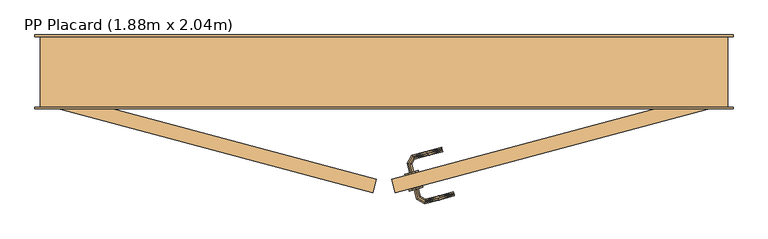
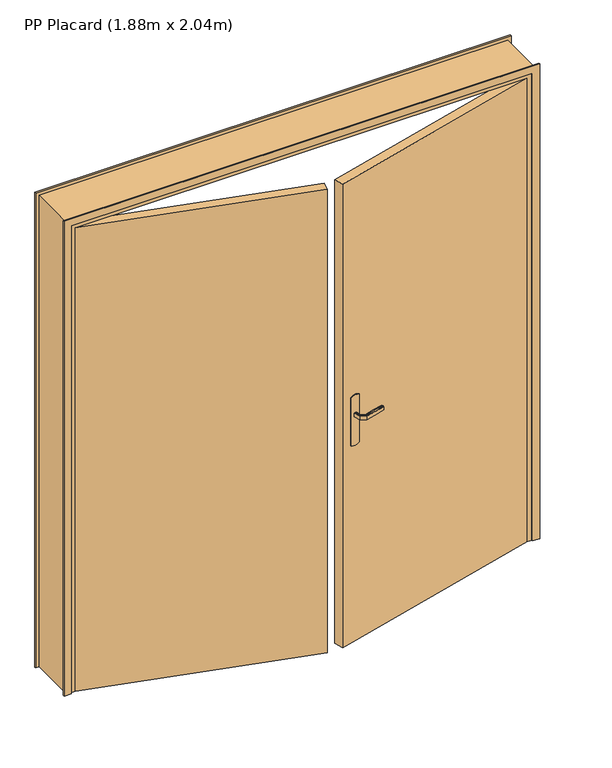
"""IFC4 building model written with IfcOpenShell, lengths in millimetres: door geometry, PP Placard (1.88m x 2.04m)."""

from ifc_helpers import new_model, si_unit, frame, origin, origin_with_axes, place, context, project, spatial, polyline, outline, extrude, faceted_brep, source, transform, mapped, element, save


def pp_placard_1_88m_x_2_04m_7054fd2c(model_context):
    return source(origin(), model_context, "Body", "SolidModel", [
        extrude(outline(polyline([(0.0, -15.0), (0.0, 15.0), (2060.0, 15.0), (2060.0, 1935.0), (0.0, 1935.0), (0.0, 1965.0), (2090.0, 1965.0), (2090.0, -15.0), (0.0, -15.0)])), frame((0.0, -5.0, 0.0), z_axis=(0.0, 1.0, 0.0), x_axis=(0.0, 0.0, 1.0)), (0.0, 0.0, 1.0), 5.0),
        faceted_brep([(1051.3821276, -184.8182834, 1007.7804408), (1047.5428609, -185.8470118, 1007.0), (1047.5428609, -185.8470118, 993.0), (1051.3821276, -184.8182834, 992.2195592), (1055.2947041, -183.7699116, 992.2195592), (1059.1339708, -182.7411832, 993.0), (1059.1339708, -182.7411832, 1007.0), (1055.2947041, -183.7699116, 1007.7804408), (1053.3143716, -161.0221435, 993.0), (1053.3143716, -161.0221435, 1007.0), (1049.0489917, -160.4605956, 1007.7804408), (1058.8166872, -143.5424506, 1007.7804408), (1056.1476732, -140.0641238, 1007.7804408), (1044.7021653, -159.888325, 1007.7804408), (1040.4367854, -159.3267771, 1007.0), (1040.4367854, -159.3267771, 993.0), (1044.7021653, -159.888325, 992.2195592), (1056.1476732, -140.0641238, 992.2195592), (1058.8166872, -143.5424506, 992.2195592), (1049.0489917, -160.4605956, 992.2195592), (1061.435692, -146.955604, 993.0), (1061.435692, -146.955604, 1007.0), (1053.5286685, -136.6509704, 1007.0), (1053.5286685, -136.6509704, 993.0), (1141.1830134, -125.5873737, 993.0), (1140.154285, -121.748107, 992.2195592), (1139.1059132, -117.8355304, 992.2195592), (1138.0771848, -113.9962638, 993.0), (1138.0771848, -113.9962638, 1007.0), (1139.1059132, -117.8355304, 1007.7804408), (1140.154285, -121.748107, 1007.7804408), (1141.1830134, -125.5873737, 1007.0), (1101.3093412, -136.2714919, 993.0), (1101.3093527, -136.2714889, 1007.0), (1098.9613002, -130.6889905, 1007.8786868), (1092.0985573, -126.3161999, 1007.0), (1092.0985559, -126.3162002, 993.0), (1098.9613005, -130.6889905, 992.1213132)], [[[0, 1, 2, 3, 4, 5, 6, 7]], [[6, 5, 8, 9]], [[9, 10, 7, 6]], [[10, 11, 12, 13, 0, 7]], [[13, 14, 1, 0]], [[2, 1, 14, 15]], [[15, 16, 3, 2]], [[16, 17, 18, 19, 4, 3]], [[19, 8, 5, 4]], [[9, 8, 20, 21]], [[21, 11, 10, 9]], [[12, 22, 14, 13]], [[15, 14, 22, 23]], [[23, 17, 16, 15]], [[18, 20, 8, 19]], [[24, 25, 26, 27, 28, 29, 30, 31]], [[21, 20, 32, 24, 31, 33]], [[33, 30, 34]], [[35, 34, 29]], [[21, 33, 11]], [[33, 31, 30]], [[28, 35, 29]], [[22, 12, 35]], [[35, 12, 34]], [[12, 11, 34]], [[11, 33, 34]], [[29, 34, 30]], [[22, 35, 28, 27, 36, 23]], [[36, 26, 37]], [[27, 26, 36]], [[17, 23, 36]], [[37, 32, 18]], [[20, 18, 32]], [[32, 25, 24]], [[26, 25, 37]], [[25, 32, 37]], [[17, 36, 37]], [[17, 37, 18]]]),
        extrude(outline(polyline([(953.3230385, -204.6528693), (942.9702767, -243.2899024), (35.0, 0.0), (45.3527618, 38.6370331), (953.3230385, -204.6528693)])), origin_with_axes(), (0.0, 0.0, 1.0), 2040.0),
        extrude(outline(polyline([(996.6769615, -204.6528693), (1904.6472382, 38.6370331), (1915.0, 0.0), (1007.0297233, -243.2899024), (996.6769615, -204.6528693)])), origin_with_axes(), (0.0, 0.0, 1.0), 2040.0),
        faceted_brep([(1064.3230798, -233.1145747, 1007.7804408), (1068.2356564, -232.066203, 1007.7804408), (1072.074923, -231.0374746, 1007.0), (1072.074923, -231.0374746, 993.0), (1068.2356564, -232.066203, 992.2195592), (1064.3230798, -233.1145747, 992.2195592), (1060.4838131, -234.1433031, 993.0), (1060.4838131, -234.1433031, 1007.0), (1067.6404058, -260.8520705, 1007.0), (1071.0535592, -258.2330658, 1007.7804408), (1090.7093474, -269.5813404, 1007.7804408), (1091.2816179, -265.234514, 1007.7804408), (1074.531886, -255.5640518, 1007.7804408), (1077.9450394, -252.945047, 1007.0), (1077.9450394, -252.945047, 993.0), (1074.531886, -255.5640518, 992.2195592), (1091.2816179, -265.234514, 992.2195592), (1090.7093474, -269.5813404, 992.2195592), (1071.0535592, -258.2330658, 992.2195592), (1067.6404058, -260.8520705, 993.0), (1090.1477995, -273.8467203, 1007.0), (1091.8431659, -260.9691341, 1007.0), (1091.8431659, -260.9691341, 993.0), (1090.1477995, -273.8467203, 993.0), (1174.8029208, -251.1634489, 993.0), (1173.7741923, -247.3241822, 992.2195592), (1172.7258206, -243.4116057, 992.2195592), (1171.6970922, -239.572339, 993.0), (1171.6970922, -239.572339, 1007.0), (1172.7258206, -243.4116057, 1007.7804408), (1173.7741923, -247.3241822, 1007.7804408), (1174.8029208, -251.1634489, 1007.0), (1128.7176884, -263.5119497, 1007.0), (1132.5279052, -256.2793481, 1007.8786868), (1131.770129, -250.2707365, 1007.0), (1131.770129, -250.2707365, 993.0), (1132.527905, -256.2793482, 992.1213132), (1128.7176912, -263.5119489, 993.0)], [[[0, 1, 2, 3, 4, 5, 6, 7]], [[8, 9, 0, 7]], [[9, 10, 11, 12, 1, 0]], [[12, 13, 2, 1]], [[3, 2, 13, 14]], [[14, 15, 4, 3]], [[15, 16, 17, 18, 5, 4]], [[18, 19, 6, 5]], [[7, 6, 19, 8]], [[20, 10, 9, 8]], [[11, 21, 13, 12]], [[14, 13, 21, 22]], [[22, 16, 15, 14]], [[17, 23, 19, 18]], [[8, 19, 23, 20]], [[24, 25, 26, 27, 28, 29, 30, 31]], [[32, 30, 33]], [[31, 30, 32]], [[10, 20, 32]], [[33, 34, 11]], [[21, 11, 34]], [[34, 29, 28]], [[30, 29, 33]], [[29, 34, 33]], [[10, 32, 33]], [[10, 33, 11]], [[22, 21, 34, 28, 27, 35]], [[35, 26, 36]], [[37, 36, 25]], [[22, 35, 16]], [[35, 27, 26]], [[24, 37, 25]], [[23, 17, 37]], [[37, 17, 36]], [[17, 16, 36]], [[16, 35, 36]], [[25, 36, 26]], [[20, 23, 37, 24, 31, 32]]]),
        faceted_brep([(0.0, 0.0, 0.0), (0.0, 200.0, 0.0), (50.0, 200.0, 0.0), (50.0, 40.0, 0.0), (35.0, 40.0, 0.0), (35.0, 0.0, 0.0), (0.0, 0.0, 2075.0), (0.0, 200.0, 2075.0), (1950.0, 200.0, 2075.0), (1950.0, 200.0, 0.0), (1900.0, 200.0, 0.0), (1900.0, 200.0, 2025.0), (50.0, 200.0, 2025.0), (50.0, 40.0, 2025.0), (1900.0, 40.0, 2025.0), (1900.0, 40.0, 0.0), (1915.0, 40.0, 0.0), (1915.0, 40.0, 2040.0), (35.0, 40.0, 2040.0), (35.0, 0.0, 2040.0), (1915.0, 0.0, 2040.0), (1915.0, 0.0, 0.0), (1950.0, 0.0, 0.0), (1950.0, 0.0, 2075.0)], [[[0, 1, 2, 3, 4, 5]], [[1, 0, 6, 7]], [[2, 1, 7, 8, 9, 10, 11, 12]], [[3, 2, 12, 13]], [[4, 3, 13, 14, 15, 16, 17, 18]], [[5, 4, 18, 19]], [[0, 5, 19, 20, 21, 22, 23, 6]], [[8, 23, 22, 9]], [[22, 21, 16, 15, 10, 9]], [[14, 11, 10, 15]], [[20, 17, 16, 21]], [[7, 6, 23, 8]], [[13, 12, 11, 14]], [[19, 18, 17, 20]]]),
        extrude(outline(polyline([(0.0, 0.0), (3.0658951, 9.9818657), (212.1249722, 29.8389109), (217.015302, 20.6127508), (219.3510918, 10.4352539), (218.9731616, 0.0), (215.9072666, -9.9818658), (6.8481894, -29.8389109), (1.9578596, -20.6127508), (-0.3779302, -10.4352539), (0.0, 0.0)])), frame((1064.6325111, -186.4442347, 866.0039831), z_axis=(-0.2588190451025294, 0.9659258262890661, 0.0), x_axis=(-0.09133539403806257, -0.02447324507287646, 0.995519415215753)), (0.0, 0.0, 1.0), 5.0),
        extrude(outline(polyline([(0.0, 0.0), (3.0658951, 9.9818657), (212.1249722, 29.8389109), (217.015302, 20.6127508), (219.3510918, 10.4352539), (218.9731616, 0.0), (215.9072666, -9.9818657), (6.8481894, -29.8389108), (1.9578596, -20.6127507), (-0.3779302, -10.4352539), (0.0, 0.0)])), frame((1076.2793681, -229.9108969, 866.0039831), z_axis=(-0.2588190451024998, 0.965925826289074, 0.0), x_axis=(-0.091335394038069, -0.024473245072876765, 0.9955194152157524)), (0.0, 0.0, 1.0), 5.0),
        extrude(outline(polyline([(0.0, -15.0), (0.0, 15.0), (2060.0, 15.0), (2060.0, 1935.0), (0.0, 1935.0), (0.0, 1965.0), (2090.0, 1965.0), (2090.0, -15.0), (0.0, -15.0)])), frame((0.0, 200.0, 0.0), z_axis=(0.0, 1.0, 0.0), x_axis=(0.0, 0.0, 1.0)), (0.0, 0.0, 1.0), 5.0),
    ])


if __name__ == "__main__":
    model = new_model("IFC4")
    model_context = context("Model", 3, world=origin())
    ifc_project = project(units=[si_unit("LENGTHUNIT", "METRE", prefix="MILLI")], contexts=[model_context])
    site = spatial("IfcSite", under=ifc_project)
    building = spatial("IfcBuilding", under=site)
    placement = place(None, origin())
    pp_placard_1_88m_x_2_04m_shape = pp_placard_1_88m_x_2_04m_7054fd2c(model_context)
    element("IfcDoor", 1, ObjectType="PP Placard (1.88m x 2.04m)", at=placement, inside=building, context=model_context, shape_type="MappedRepresentation", body=[
        mapped(pp_placard_1_88m_x_2_04m_shape, transform((0.0, 0.0, 0.0), x_axis=(1.0, 0.0, 0.0), y_axis=(0.0, 1.0, 0.0), z_axis=(0.0, 0.0, 1.0))),
    ])
    save(model, "model.ifc")
